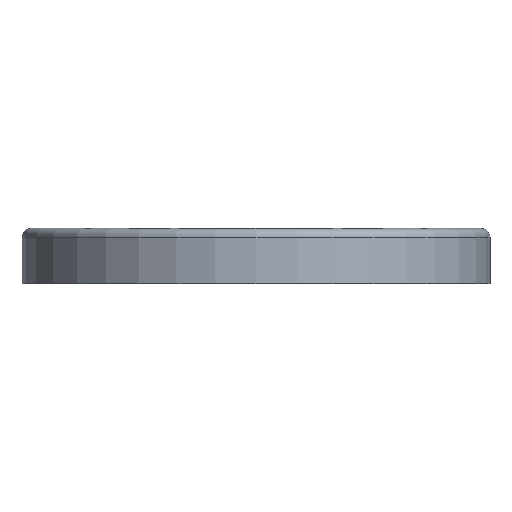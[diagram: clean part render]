
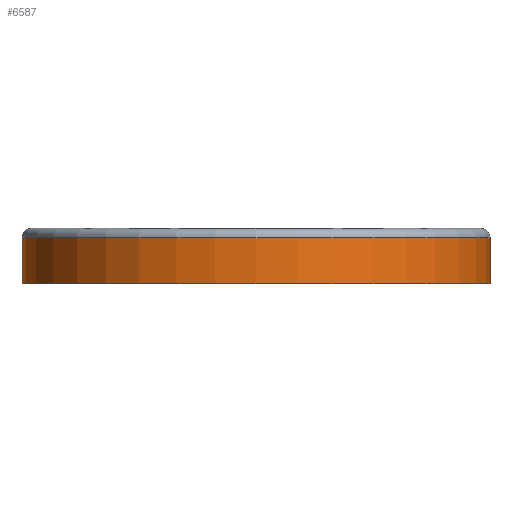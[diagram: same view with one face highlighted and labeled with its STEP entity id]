
A CAD part, front view. The second image highlights one B-rep face of the part: STEP entity #6587.
In plain terms, the highlighted cylindrical face has radius 12.7 mm (diameter 25.4 mm), a partial arc.
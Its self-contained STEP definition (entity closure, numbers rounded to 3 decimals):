
#2123=CARTESIAN_POINT('',(0.,0.,1.));
#2124=DIRECTION('',(0.,0.,1.));
#2125=DIRECTION('',(-1.,0.,0.));
#2126=AXIS2_PLACEMENT_3D('',#2123,#2124,#2125);
#2128=DIRECTION('',(0.,0.,-1.));
#2129=VECTOR('',#2128,2.5);
#2130=CARTESIAN_POINT('',(12.7,0.,1.));
#2131=LINE('',#2130,#2129);
#2132=DIRECTION('',(0.,0.,1.));
#2133=VECTOR('',#2132,2.5);
#2134=CARTESIAN_POINT('',(-12.7,0.,-1.5));
#2135=LINE('',#2134,#2133);
#2141=CARTESIAN_POINT('',(0.,0.,-1.5));
#2142=DIRECTION('',(0.,0.,-1.));
#2143=DIRECTION('',(1.,0.,0.));
#2144=AXIS2_PLACEMENT_3D('',#2141,#2142,#2143);
#4110=CARTESIAN_POINT('',(-12.7,0.,-1.5));
#4111=CARTESIAN_POINT('',(12.7,0.,-1.5));
#4112=VERTEX_POINT('',#4110);
#4113=VERTEX_POINT('',#4111);
#4118=CARTESIAN_POINT('',(-12.7,0.,1.));
#4119=CARTESIAN_POINT('',(12.7,0.,1.));
#4120=VERTEX_POINT('',#4118);
#4121=VERTEX_POINT('',#4119);
#6575=CARTESIAN_POINT('',(0.,0.,0.));
#6576=DIRECTION('',(0.,0.,1.));
#6577=DIRECTION('',(1.,0.,0.));
#6578=AXIS2_PLACEMENT_3D('',#6575,#6576,#6577);
#6579=CYLINDRICAL_SURFACE('',#6578,12.7);
#6580=ORIENTED_EDGE('',*,*,#6540,.T.);
#6581=ORIENTED_EDGE('',*,*,#6570,.T.);
#6583=ORIENTED_EDGE('',*,*,#6582,.T.);
#6584=ORIENTED_EDGE('',*,*,#6566,.T.);
#6585=EDGE_LOOP('',(#6580,#6581,#6583,#6584));
#6586=FACE_OUTER_BOUND('',#6585,.F.);
#6587=ADVANCED_FACE('',(#6586),#6579,.T.);
#2127=CIRCLE('',#2126,12.7);
#2145=CIRCLE('',#2144,12.7);
#6540=EDGE_CURVE('',#4120,#4121,#2127,.T.);
#6566=EDGE_CURVE('',#4112,#4120,#2135,.T.);
#6570=EDGE_CURVE('',#4121,#4113,#2131,.T.);
#6582=EDGE_CURVE('',#4113,#4112,#2145,.T.);
